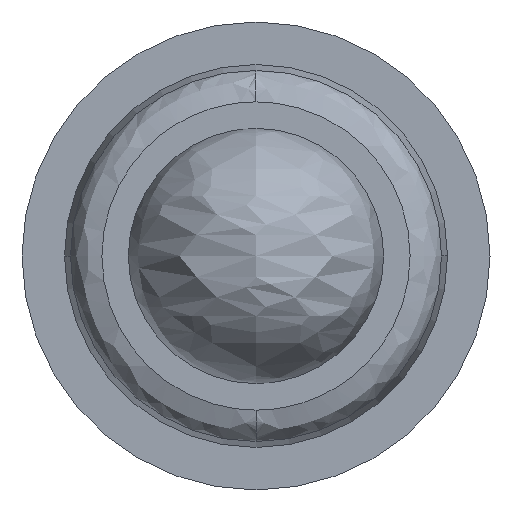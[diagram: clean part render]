
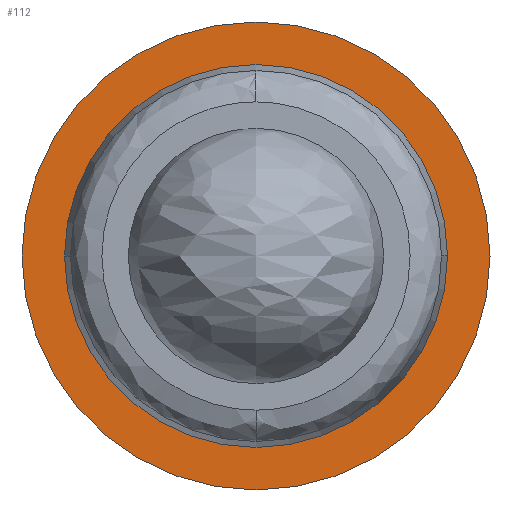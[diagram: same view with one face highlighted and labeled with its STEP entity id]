
A CAD part, left-side view. The second image highlights one B-rep face of the part: STEP entity #112.
In plain terms, the highlighted planar face has unit normal (-1, 0, 0).
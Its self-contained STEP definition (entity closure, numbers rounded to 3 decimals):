
#15 = CARTESIAN_POINT ( 'NONE',  ( -6.517, 0., 0. ) ) ;
#32 = DIRECTION ( 'NONE',  ( -1., 0., 0. ) ) ;
#64 = FACE_BOUND ( 'NONE', #695, .T. ) ;
#67 = CIRCLE ( 'NONE', #291, 1.1 ) ;
#78 = CARTESIAN_POINT ( 'NONE',  ( -6.517, 0., 0. ) ) ;
#82 = DIRECTION ( 'NONE',  ( 1., 0., 0. ) ) ;
#105 = EDGE_CURVE ( 'NONE', #166, #233, #67, .T. ) ;
#110 = VERTEX_POINT ( 'NONE', #775 ) ;
#112 = ADVANCED_FACE ( 'NONE', ( #446, #64 ), #644, .F. ) ;
#156 = DIRECTION ( 'NONE',  ( 0., 0., 1. ) ) ;
#157 = CARTESIAN_POINT ( 'NONE',  ( -6.517, 0., -0.9 ) ) ;
#166 = VERTEX_POINT ( 'NONE', #260 ) ;
#213 = CARTESIAN_POINT ( 'NONE',  ( -6.517, 0., 0. ) ) ;
#215 = AXIS2_PLACEMENT_3D ( 'NONE', #15, #82, #541 ) ;
#233 = VERTEX_POINT ( 'NONE', #284 ) ;
#260 = CARTESIAN_POINT ( 'NONE',  ( -6.517, 0., -1.1 ) ) ;
#269 = VERTEX_POINT ( 'NONE', #157 ) ;
#284 = CARTESIAN_POINT ( 'NONE',  ( -6.517, 0., 1.1 ) ) ;
#287 = ORIENTED_EDGE ( 'NONE', *, *, #309, .F. ) ;
#290 = CIRCLE ( 'NONE', #215, 1.1 ) ;
#291 = AXIS2_PLACEMENT_3D ( 'NONE', #78, #704, #832 ) ;
#296 = EDGE_CURVE ( 'NONE', #269, #110, #578, .T. ) ;
#309 = EDGE_CURVE ( 'NONE', #233, #166, #290, .T. ) ;
#372 = ORIENTED_EDGE ( 'NONE', *, *, #105, .F. ) ;
#385 = CARTESIAN_POINT ( 'NONE',  ( -6.517, 1.1, 0. ) ) ;
#431 = ORIENTED_EDGE ( 'NONE', *, *, #296, .F. ) ;
#446 = FACE_OUTER_BOUND ( 'NONE', #676, .T. ) ;
#498 = AXIS2_PLACEMENT_3D ( 'NONE', #385, #584, #784 ) ;
#541 = DIRECTION ( 'NONE',  ( 0., 0., 1. ) ) ;
#548 = DIRECTION ( 'NONE',  ( -1., 0., 0. ) ) ;
#571 = CIRCLE ( 'NONE', #647, 0.9 ) ;
#578 = CIRCLE ( 'NONE', #801, 0.9 ) ;
#584 = DIRECTION ( 'NONE',  ( 1., 0., 0. ) ) ;
#595 = DIRECTION ( 'NONE',  ( 0., 0., 1. ) ) ;
#602 = ORIENTED_EDGE ( 'NONE', *, *, #700, .F. ) ;
#644 = PLANE ( 'NONE',  #498 ) ;
#647 = AXIS2_PLACEMENT_3D ( 'NONE', #213, #548, #156 ) ;
#676 = EDGE_LOOP ( 'NONE', ( #287, #372 ) ) ;
#695 = EDGE_LOOP ( 'NONE', ( #602, #431 ) ) ;
#700 = EDGE_CURVE ( 'NONE', #110, #269, #571, .T. ) ;
#704 = DIRECTION ( 'NONE',  ( 1., 0., 0. ) ) ;
#740 = CARTESIAN_POINT ( 'NONE',  ( -6.517, 0., 0. ) ) ;
#775 = CARTESIAN_POINT ( 'NONE',  ( -6.517, 0., 0.9 ) ) ;
#784 = DIRECTION ( 'NONE',  ( 0., 0., -1. ) ) ;
#801 = AXIS2_PLACEMENT_3D ( 'NONE', #740, #32, #595 ) ;
#832 = DIRECTION ( 'NONE',  ( 0., 0., 1. ) ) ;
